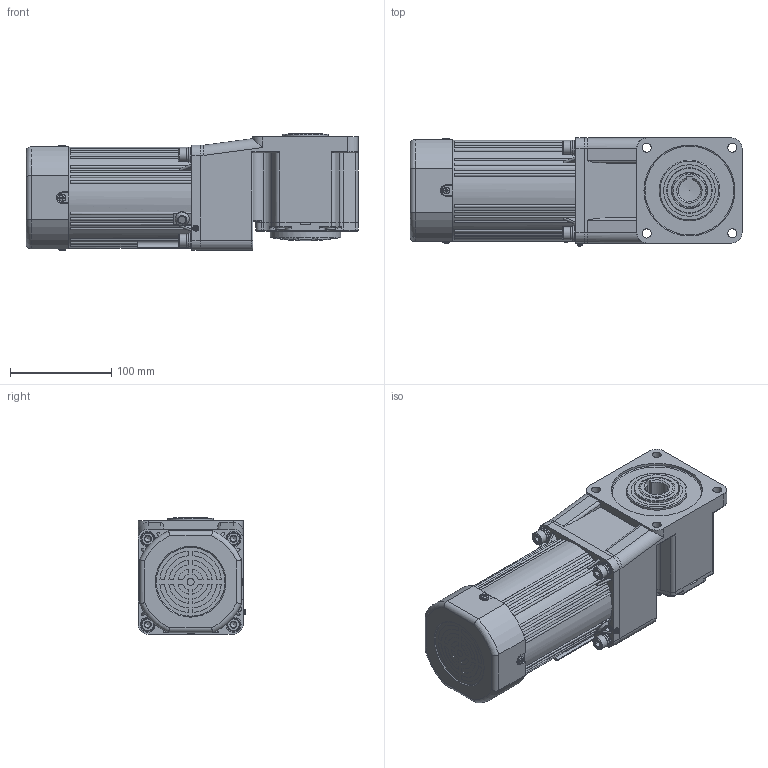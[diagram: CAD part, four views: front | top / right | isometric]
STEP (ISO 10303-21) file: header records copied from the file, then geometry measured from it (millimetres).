
FILE_DESCRIPTION(/* description */ (''),/* implementation_level */ '2;1');
FILE_NAME(/* name */ '100+直角中空-调速风叶-160-250W 新版.stp',/* time_stamp */ '2025-03-25T15:40:26+08:00',/* author */ (''),/* organization */ (''),/* preprocessor_version */ 'ST-DEVELOPER v18.102',/* originating_system */ 'SIEMENS PLM Software NX 2027',/* authorisation */ '');
FILE_SCHEMA (('AP203_CONFIGURATION_CONTROLLED_3D_DESIGN_OF_MECHANICAL_PARTS_AND_ASSEMBLIES_MIM_LF { 1 0 10303 403 2 1 2}'));
Length unit declared in the file: millimetre
Products named in the file (1): 6RK200CC·RF_6GU3-750K-C·15L_stp_objects
Bounding box: 328.5 x 106.83 x 115.53 mm (x, y, z)
Volume: 2846021.8 mm3; surface area: 227928.9 mm2
Topology: 15 solids, 15 shells, 1025 faces, 2558 edges, 1625 vertices
Faces by surface type: plane 481, cylinder 306, bspline 101, torus 64, cone 57, sphere 16
Full cylindrical faces by diameter (mm): 2.6 x1, 3.2 x1, 3.3 x2, 3.5 x2, 4.55 x1, 5.1 x1, 5.15 x1, 6 x9, 6.8 x8, 7 x1, 7.5 x1, 7.76 x4, 8.4 x4, 9 x8, 9.5 x4, 13 x4, 14 x4, 15 x4, 15.5 x1, 19 x1, 30 x1, 45 x1, 52 x1, 52.5 x1, 60 x1, 65 x1, 65.5 x1, 70 x1, 77 x1, 89 x1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
Entity records: 30654 total; most frequent: CARTESIAN_POINT 7300, ORIENTED_EDGE 4696, DIRECTION 4692, EDGE_CURVE 2348, AXIS2_PLACEMENT_3D 1861, VERTEX_POINT 1561, EDGE_LOOP 1263, ADVANCED_FACE 1025
